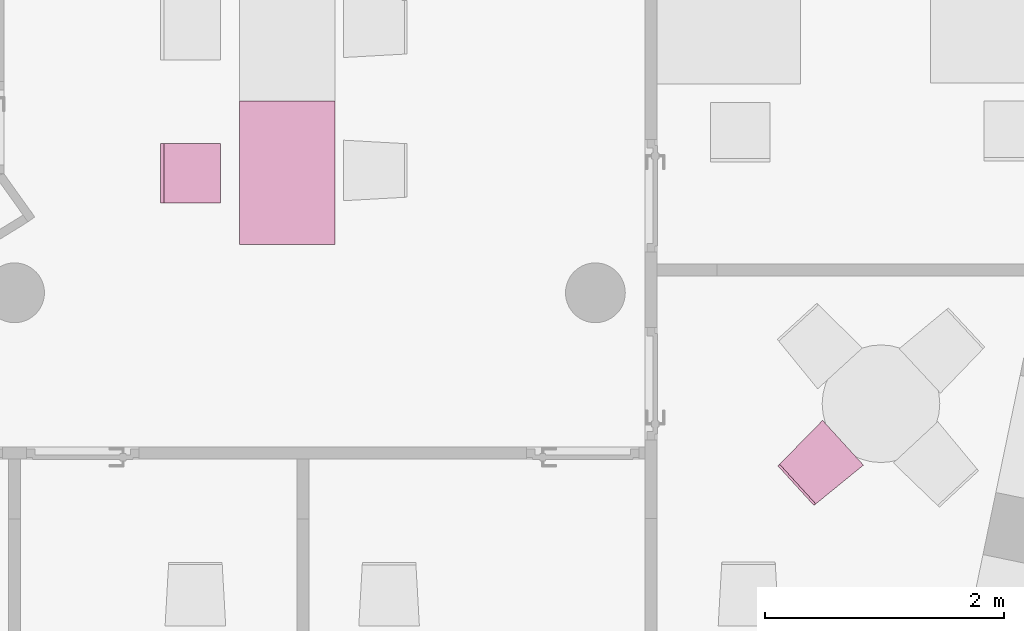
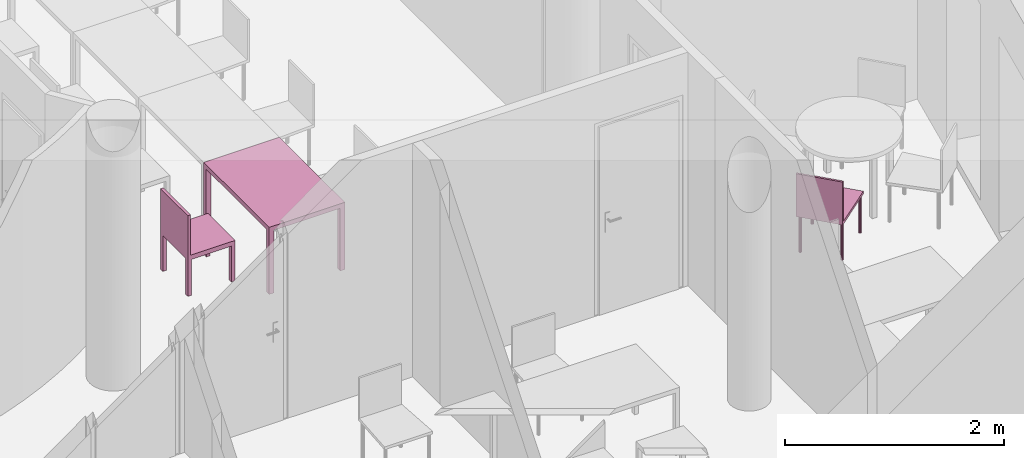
"""IFC4 building model written with IfcOpenShell, lengths in metres."""

from ifc_helpers import new_model, entity, si_unit, converted_unit, derived_unit, frame, origin, place, context, subcontext, project, spatial, faceted_brep, element, save


model = new_model("IFC4")

# Units and contexts
model_context = context("Model", 3, precision=1e-05, world=origin())
body_context = subcontext(model_context, "Body", "Model", "MODEL_VIEW")
ifc_project = project(units=[si_unit("LENGTHUNIT", "METRE"), si_unit("AREAUNIT", "SQUARE_METRE"), si_unit("VOLUMEUNIT", "CUBIC_METRE"), si_unit("MASSUNIT", "GRAM", prefix="KILO"), converted_unit("PLANEANGLEUNIT", "DEGREE", entity("IfcPlaneAngleMeasure", 0.0174532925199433), si_unit("PLANEANGLEUNIT", "RADIAN"), dimensions=[0, 0, 0, 0, 0, 0, 0]), derived_unit("THERMALTRANSMITTANCEUNIT", [(si_unit("POWERUNIT", "WATT"), 1), (si_unit("THERMODYNAMICTEMPERATUREUNIT", "KELVIN"), -1), (si_unit("LENGTHUNIT", "METRE"), -2)]), derived_unit("VOLUMETRICFLOWRATEUNIT", [(si_unit("LENGTHUNIT", "METRE"), 3), (converted_unit("TIMEUNIT", "hour", entity("IfcTimeMeasure", 3600.0), si_unit("TIMEUNIT", "SECOND"), dimensions=[0, 0, 1, 0, 0, 0, 0]), -1), (si_unit("LENGTHUNIT", "METRE"), -1)])], contexts=[model_context])

# Building, storeys
building_placement = place(None, origin())
building = spatial("IfcBuilding", under=ifc_project, at=building_placement, Name="HABITATGE PLURIFAMILIAR", CompositionType="ELEMENT")
storey_1_placement = place(building_placement, frame((0.0, 0.0, 6.25)))
storey_1 = spatial("IfcBuildingStorey", under=building, at=storey_1_placement, Name="PLANTA PRIMERA", CompositionType="ELEMENT", Elevation=6.25)
storey_2_placement = place(storey_1_placement, frame((0.0, 0.0, 3.35)))
storey_2 = spatial("IfcBuildingStorey", under=storey_1, at=storey_2_placement, Name="NOU", CompositionType="PARTIAL")

# Furniture
furniture_1_placement = place(storey_2_placement, frame((418.017336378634, 18.2033326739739, -3.35)))
element("IfcFurniture", 1, at=furniture_1_placement, inside=storey_2, Name="Taula 120X80_P1", context=body_context, shape_type="Brep", body=[
    faceted_brep([(0.750069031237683, 0.0464285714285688, 0.0), (0.750069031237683, 0.0, 0.0), (0.800069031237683, 0.0, 0.0), (0.800069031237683, 0.0464285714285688, 0.0), (0.800069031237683, 0.0464285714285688, 0.7), (0.800069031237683, 0.0, 0.7), (0.750069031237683, 0.0, 0.7), (0.750069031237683, 0.0464285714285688, 0.7)], [[[0, 1, 2, 3]], [[4, 5, 6, 7]], [[3, 4, 7, 0]], [[2, 5, 4, 3]], [[1, 6, 5, 2]], [[0, 7, 6, 1]]], orient=[[False], [False], [False], [False], [False], [False]]),
    faceted_brep([(0.0, 0.0464285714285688, 0.0), (0.0, 0.0, 0.0), (0.0500000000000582, 0.0, 0.0), (0.0500000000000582, 0.0464285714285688, 0.0), (0.0500000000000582, 0.0464285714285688, 0.7), (0.0500000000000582, 0.0, 0.7), (0.0, 0.0, 0.7), (0.0, 0.0464285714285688, 0.7)], [[[0, 1, 2, 3]], [[4, 5, 6, 7]], [[3, 4, 7, 0]], [[2, 5, 4, 3]], [[1, 6, 5, 2]], [[0, 7, 6, 1]]], orient=[[False], [False], [False], [False], [False], [False]]),
    faceted_brep([(0.750069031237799, 1.2, 0.0), (0.750069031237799, 1.15357142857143, 0.0), (0.800069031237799, 1.15357142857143, 0.0), (0.800069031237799, 1.2, 0.0), (0.800069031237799, 1.2, 0.7), (0.800069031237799, 1.15357142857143, 0.7), (0.750069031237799, 1.15357142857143, 0.7), (0.750069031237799, 1.2, 0.7)], [[[0, 1, 2, 3]], [[4, 5, 6, 7]], [[3, 4, 7, 0]], [[2, 5, 4, 3]], [[1, 6, 5, 2]], [[0, 7, 6, 1]]], orient=[[False], [False], [False], [False], [False], [False]]),
    faceted_brep([(0.0, 1.2, 0.0), (0.0, 1.15357142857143, 0.0), (0.0500000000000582, 1.15357142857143, 0.0), (0.0500000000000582, 1.2, 0.0), (0.0500000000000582, 1.2, 0.7), (0.0500000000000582, 1.15357142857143, 0.7), (0.0, 1.15357142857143, 0.7), (0.0, 1.2, 0.7)], [[[0, 1, 2, 3]], [[4, 5, 6, 7]], [[3, 4, 7, 0]], [[2, 5, 4, 3]], [[1, 6, 5, 2]], [[0, 7, 6, 1]]], orient=[[False], [False], [False], [False], [False], [False]]),
    faceted_brep([(0.0, 1.2, 0.7), (0.0, 0.0, 0.7), (0.800069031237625, 0.0, 0.7), (0.800069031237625, 1.2, 0.7), (0.800069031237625, 1.2, 0.75), (0.800069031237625, 0.0, 0.75), (0.0, 0.0, 0.75), (0.0, 1.2, 0.75)], [[[0, 1, 2, 3]], [[4, 5, 6, 7]], [[3, 4, 7, 0]], [[2, 5, 4, 3]], [[1, 6, 5, 2]], [[0, 7, 6, 1]]], orient=[[False], [False], [False], [False], [False], [False]]),
])
furniture_2_placement = place(storey_2_placement, frame((417.357575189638, 18.5493010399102, -3.34942958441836)))
element("IfcFurniture", 2, at=furniture_2_placement, inside=storey_2, Name="Cadira d'Oficina_P1", context=body_context, shape_type="Brep", body=[
    faceted_brep([(0.5, 0.0, 0.4), (0.5, 0.5, 0.4), (0.0, 0.5, 0.4), (0.0, 0.0, 0.4), (0.0, 0.0, 0.45), (0.0, 0.5, 0.45), (0.5, 0.5, 0.45), (0.5, 0.0, 0.45)], [[[0, 1, 2, 3]], [[4, 5, 6, 7]], [[3, 4, 7, 0]], [[2, 5, 4, 3]], [[1, 6, 5, 2]], [[0, 7, 6, 1]]], orient=[[False], [False], [False], [False], [False], [False]]),
    faceted_brep([(0.04, 0.5, 0.0), (0.0, 0.5, 0.0), (0.0, 0.46, 0.0), (0.04, 0.46, 0.0), (0.04, 0.46, 0.4), (0.0, 0.46, 0.4), (0.0, 0.5, 0.4), (0.04, 0.5, 0.4)], [[[0, 1, 2, 3]], [[4, 5, 6, 7]], [[3, 4, 7, 0]], [[2, 5, 4, 3]], [[1, 6, 5, 2]], [[0, 7, 6, 1]]], orient=[[False], [False], [False], [False], [False], [False]]),
    faceted_brep([(0.5, 0.5, 0.0), (0.46, 0.5, 0.0), (0.46, 0.46, 0.0), (0.5, 0.46, 0.0), (0.5, 0.46, 0.4), (0.46, 0.46, 0.4), (0.46, 0.5, 0.4), (0.5, 0.5, 0.4)], [[[0, 1, 2, 3]], [[4, 5, 6, 7]], [[3, 4, 7, 0]], [[2, 5, 4, 3]], [[1, 6, 5, 2]], [[0, 7, 6, 1]]], orient=[[False], [False], [False], [False], [False], [False]]),
    faceted_brep([(0.04, 0.04, 0.0), (0.0, 0.04, 0.0), (0.0, 0.0, 0.0), (0.04, 0.0, 0.0), (0.04, 0.0, 0.4), (0.0, 0.0, 0.4), (0.0, 0.04, 0.4), (0.04, 0.04, 0.4)], [[[0, 1, 2, 3]], [[4, 5, 6, 7]], [[3, 4, 7, 0]], [[2, 5, 4, 3]], [[1, 6, 5, 2]], [[0, 7, 6, 1]]], orient=[[False], [False], [False], [False], [False], [False]]),
    faceted_brep([(0.5, 0.04, 0.0), (0.46, 0.04, 0.0), (0.46, 0.0, 0.0), (0.5, 0.0, 0.0), (0.5, 0.0, 0.4), (0.46, 0.0, 0.4), (0.46, 0.04, 0.4), (0.5, 0.04, 0.4)], [[[0, 1, 2, 3]], [[4, 5, 6, 7]], [[3, 4, 7, 0]], [[2, 5, 4, 3]], [[1, 6, 5, 2]], [[0, 7, 6, 1]]], orient=[[False], [False], [False], [False], [False], [False]]),
    faceted_brep([(0.03, 0.5, 0.45), (0.0, 0.5, 0.45), (0.0, 0.0, 0.45), (0.03, 0.0, 0.45), (0.03, 0.0, 0.9), (0.0, 0.0, 0.9), (0.0, 0.5, 0.9), (0.03, 0.5, 0.9)], [[[0, 1, 2, 3]], [[4, 5, 6, 7]], [[3, 4, 7, 0]], [[2, 5, 4, 3]], [[1, 6, 5, 2]], [[0, 7, 6, 1]]], orient=[[False], [False], [False], [False], [False], [False]]),
])
furniture_3_placement = place(storey_2_placement, frame((422.517692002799, 16.0221823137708, -3.35114412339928)))
element("IfcFurniture", 3, at=furniture_3_placement, inside=storey_2, Name="Cadira confient_P1", context=body_context, shape_type="Brep", body=[
    faceted_brep([(0.689872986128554, 0.326821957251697, 0.0), (0.69162785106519, 0.328745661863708, 0.0), (0.693022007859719, 0.330944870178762, 0.0), (0.694013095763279, 0.333352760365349, 0.0), (0.694571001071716, 0.335896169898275, 0.0), (0.694678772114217, 0.338497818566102, 0.0), (0.694333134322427, 0.341078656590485, 0.0), (0.693544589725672, 0.343560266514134, 0.0), (0.692337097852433, 0.345867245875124, 0.0), (0.690747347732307, 0.347929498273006, 0.0), (0.688823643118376, 0.349684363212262, 0.0), (0.686624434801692, 0.35107852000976, 0.0), (0.684216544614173, 0.352069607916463, 0.0), (0.681673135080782, 0.352627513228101, 0.0), (0.679071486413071, 0.352735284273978, 0.0), (0.676490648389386, 0.35238964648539, 0.0), (0.674009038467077, 0.351601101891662, 0.0), (0.671702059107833, 0.350393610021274, 0.0), (0.669639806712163, 0.348803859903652, 0.0), (0.667884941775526, 0.346880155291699, 0.0), (0.666490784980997, 0.344680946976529, 0.0), (0.665499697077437, 0.342273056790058, 0.0), (0.664941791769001, 0.339729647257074, 0.0), (0.664834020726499, 0.337127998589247, 0.0), (0.665179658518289, 0.334547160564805, 0.0), (0.665968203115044, 0.332065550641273, 0.0), (0.667175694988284, 0.329758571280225, 0.0), (0.668765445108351, 0.327696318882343, 0.0), (0.670689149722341, 0.325941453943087, 0.0), (0.672888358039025, 0.324547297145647, 0.0), (0.675296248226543, 0.323556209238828, 0.0), (0.677839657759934, 0.322998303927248, 0.0), (0.680441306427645, 0.322890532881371, 0.0), (0.68302214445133, 0.323236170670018, 0.0), (0.68550375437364, 0.324024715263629, 0.0), (0.687810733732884, 0.325232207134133, 0.0), (0.689872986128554, 0.326821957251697, 0.448281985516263), (0.687810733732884, 0.325232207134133, 0.448281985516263), (0.68550375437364, 0.324024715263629, 0.448281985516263), (0.68302214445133, 0.323236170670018, 0.448281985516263), (0.680441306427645, 0.322890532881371, 0.448281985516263), (0.677839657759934, 0.322998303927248, 0.448281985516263), (0.675296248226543, 0.323556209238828, 0.448281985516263), (0.672888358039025, 0.324547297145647, 0.448281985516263), (0.670689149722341, 0.325941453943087, 0.448281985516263), (0.668765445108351, 0.327696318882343, 0.448281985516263), (0.667175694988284, 0.329758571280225, 0.448281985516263), (0.665968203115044, 0.332065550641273, 0.448281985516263), (0.665179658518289, 0.334547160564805, 0.448281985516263), (0.664834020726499, 0.337127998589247, 0.448281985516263), (0.664941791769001, 0.339729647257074, 0.448281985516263), (0.665499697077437, 0.342273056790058, 0.448281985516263), (0.666490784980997, 0.344680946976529, 0.448281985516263), (0.667884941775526, 0.346880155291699, 0.448281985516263), (0.669639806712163, 0.348803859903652, 0.448281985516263), (0.671702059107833, 0.350393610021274, 0.448281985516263), (0.674009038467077, 0.351601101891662, 0.448281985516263), (0.676490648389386, 0.35238964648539, 0.448281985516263), (0.679071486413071, 0.352735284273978, 0.448281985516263), (0.681673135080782, 0.352627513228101, 0.448281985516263), (0.684216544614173, 0.352069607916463, 0.448281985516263), (0.686624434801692, 0.35107852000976, 0.448281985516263), (0.688823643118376, 0.349684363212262, 0.448281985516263), (0.690747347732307, 0.347929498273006, 0.448281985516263), (0.692337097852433, 0.345867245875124, 0.448281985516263), (0.693544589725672, 0.343560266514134, 0.448281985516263), (0.694333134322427, 0.341078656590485, 0.448281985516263), (0.694678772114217, 0.338497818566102, 0.448281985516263), (0.694571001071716, 0.335896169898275, 0.448281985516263), (0.694013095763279, 0.333352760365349, 0.448281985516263), (0.693022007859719, 0.330944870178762, 0.448281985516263), (0.69162785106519, 0.328745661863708, 0.448281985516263)], [[[0, 1, 2, 3, 4, 5, 6, 7, 8, 9, 10, 11, 12, 13, 14, 15, 16, 17, 18, 19, 20, 21, 22, 23, 24, 25, 26, 27, 28, 29, 30, 31, 32, 33, 34, 35]], [[36, 37, 38, 39, 40, 41, 42, 43, 44, 45, 46, 47, 48, 49, 50, 51, 52, 53, 54, 55, 56, 57, 58, 59, 60, 61, 62, 63, 64, 65, 66, 67, 68, 69, 70, 71]], [[35, 37, 36, 0]], [[34, 38, 37, 35]], [[33, 39, 38, 34]], [[32, 40, 39, 33]], [[31, 41, 40, 32]], [[30, 42, 41, 31]], [[29, 43, 42, 30]], [[28, 44, 43, 29]], [[27, 45, 44, 28]], [[26, 46, 45, 27]], [[25, 47, 46, 26]], [[24, 48, 47, 25]], [[23, 49, 48, 24]], [[22, 50, 49, 23]], [[21, 51, 50, 22]], [[20, 52, 51, 21]], [[19, 53, 52, 20]], [[18, 54, 53, 19]], [[17, 55, 54, 18]], [[16, 56, 55, 17]], [[15, 57, 56, 16]], [[14, 58, 57, 15]], [[13, 59, 58, 14]], [[12, 60, 59, 13]], [[11, 61, 60, 12]], [[10, 62, 61, 11]], [[9, 63, 62, 10]], [[8, 64, 63, 9]], [[7, 65, 64, 8]], [[6, 66, 65, 7]], [[5, 67, 66, 6]], [[4, 68, 67, 5]], [[3, 69, 68, 4]], [[2, 70, 69, 3]], [[1, 71, 70, 2]], [[0, 36, 71, 1]]], orient=[[False], [False], [False], [False], [False], [False], [False], [False], [False], [False], [False], [False], [False], [False], [False], [False], [False], [False], [False], [False], [False], [False], [False], [False], [False], [False], [False], [False], [False], [False], [False], [False], [False], [False], [False], [False], [False], [False]]),
    faceted_brep([(0.329663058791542, 0.0355609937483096, 0.0), (0.331417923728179, 0.0374846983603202, 0.0), (0.33281208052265, 0.0396839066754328, 0.0), (0.333803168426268, 0.0420917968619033, 0.0), (0.334361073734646, 0.0446352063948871, 0.0), (0.334468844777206, 0.0472368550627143, 0.0), (0.334123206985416, 0.0498176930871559, 0.0), (0.333334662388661, 0.0522993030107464, 0.0), (0.332127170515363, 0.0546062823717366, 0.0), (0.330537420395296, 0.0566685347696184, 0.0), (0.328613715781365, 0.0584233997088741, 0.0), (0.326414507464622, 0.0598175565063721, 0.0), (0.324006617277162, 0.0608086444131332, 0.0), (0.321463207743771, 0.0613665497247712, 0.0), (0.31886155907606, 0.0614743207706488, 0.0), (0.316280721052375, 0.0611286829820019, 0.0), (0.313799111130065, 0.060340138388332, 0.0), (0.311492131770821, 0.0591326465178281, 0.0), (0.309429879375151, 0.057542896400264, 0.0), (0.307675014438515, 0.0556191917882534, 0.0), (0.306280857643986, 0.053419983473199, 0.0), (0.305289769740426, 0.0510120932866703, 0.0), (0.304731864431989, 0.0484686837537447, 0.0), (0.304624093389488, 0.0458670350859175, 0.0), (0.304969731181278, 0.0432861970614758, 0.0), (0.305758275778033, 0.0408045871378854, 0.0), (0.306965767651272, 0.038497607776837, 0.0), (0.308555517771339, 0.0364353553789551, 0.0), (0.310479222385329, 0.0346804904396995, 0.0), (0.312678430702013, 0.0332863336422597, 0.0), (0.315086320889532, 0.0322952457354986, 0.0), (0.317629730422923, 0.0317373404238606, 0.0), (0.320231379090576, 0.031629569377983, 0.0), (0.32281221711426, 0.0319752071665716, 0.0), (0.325293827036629, 0.0327637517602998, 0.0), (0.327600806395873, 0.0339712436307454, 0.0), (0.329663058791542, 0.0355609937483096, 0.448281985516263), (0.327600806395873, 0.0339712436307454, 0.448281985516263), (0.325293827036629, 0.0327637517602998, 0.448281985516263), (0.32281221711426, 0.0319752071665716, 0.448281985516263), (0.320231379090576, 0.031629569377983, 0.448281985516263), (0.317629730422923, 0.0317373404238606, 0.448281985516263), (0.315086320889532, 0.0322952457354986, 0.448281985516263), (0.312678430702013, 0.0332863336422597, 0.448281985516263), (0.310479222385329, 0.0346804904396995, 0.448281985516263), (0.308555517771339, 0.0364353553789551, 0.448281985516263), (0.306965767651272, 0.038497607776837, 0.448281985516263), (0.305758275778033, 0.0408045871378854, 0.448281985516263), (0.304969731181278, 0.0432861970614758, 0.448281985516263), (0.304624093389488, 0.0458670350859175, 0.448281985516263), (0.304731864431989, 0.0484686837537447, 0.448281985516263), (0.305289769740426, 0.0510120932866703, 0.448281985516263), (0.306280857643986, 0.053419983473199, 0.448281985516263), (0.307675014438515, 0.0556191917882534, 0.448281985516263), (0.309429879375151, 0.057542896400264, 0.448281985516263), (0.311492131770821, 0.0591326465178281, 0.448281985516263), (0.313799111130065, 0.060340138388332, 0.448281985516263), (0.316280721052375, 0.0611286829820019, 0.448281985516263), (0.31886155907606, 0.0614743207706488, 0.448281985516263), (0.321463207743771, 0.0613665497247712, 0.448281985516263), (0.324006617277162, 0.0608086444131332, 0.448281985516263), (0.326414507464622, 0.0598175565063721, 0.448281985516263), (0.328613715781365, 0.0584233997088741, 0.448281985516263), (0.330537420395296, 0.0566685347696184, 0.448281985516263), (0.332127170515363, 0.0546062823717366, 0.448281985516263), (0.333334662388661, 0.0522993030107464, 0.448281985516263), (0.334123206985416, 0.0498176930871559, 0.448281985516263), (0.334468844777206, 0.0472368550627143, 0.448281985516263), (0.334361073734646, 0.0446352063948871, 0.448281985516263), (0.333803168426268, 0.0420917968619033, 0.448281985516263), (0.33281208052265, 0.0396839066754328, 0.448281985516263), (0.331417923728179, 0.0374846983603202, 0.448281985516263)], [[[0, 1, 2, 3, 4, 5, 6, 7, 8, 9, 10, 11, 12, 13, 14, 15, 16, 17, 18, 19, 20, 21, 22, 23, 24, 25, 26, 27, 28, 29, 30, 31, 32, 33, 34, 35]], [[36, 37, 38, 39, 40, 41, 42, 43, 44, 45, 46, 47, 48, 49, 50, 51, 52, 53, 54, 55, 56, 57, 58, 59, 60, 61, 62, 63, 64, 65, 66, 67, 68, 69, 70, 71]], [[35, 37, 36, 0]], [[34, 38, 37, 35]], [[33, 39, 38, 34]], [[32, 40, 39, 33]], [[31, 41, 40, 32]], [[30, 42, 41, 31]], [[29, 43, 42, 30]], [[28, 44, 43, 29]], [[27, 45, 44, 28]], [[26, 46, 45, 27]], [[25, 47, 46, 26]], [[24, 48, 47, 25]], [[23, 49, 48, 24]], [[22, 50, 49, 23]], [[21, 51, 50, 22]], [[20, 52, 51, 21]], [[19, 53, 52, 20]], [[18, 54, 53, 19]], [[17, 55, 54, 18]], [[16, 56, 55, 17]], [[15, 57, 56, 16]], [[14, 58, 57, 15]], [[13, 59, 58, 14]], [[12, 60, 59, 13]], [[11, 61, 60, 12]], [[10, 62, 61, 11]], [[9, 63, 62, 10]], [[8, 64, 63, 9]], [[7, 65, 64, 8]], [[6, 66, 65, 7]], [[5, 67, 66, 6]], [[4, 68, 67, 5]], [[3, 69, 68, 4]], [[2, 70, 69, 3]], [[1, 71, 70, 2]], [[0, 36, 71, 1]]], orient=[[False], [False], [False], [False], [False], [False], [False], [False], [False], [False], [False], [False], [False], [False], [False], [False], [False], [False], [False], [False], [False], [False], [False], [False], [False], [False], [False], [False], [False], [False], [False], [False], [False], [False], [False], [False], [False], [False]]),
    faceted_brep([(0.379818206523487, 0.666624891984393, 0.0), (0.381573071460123, 0.668548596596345, 0.0), (0.382967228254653, 0.670747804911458, 0.0), (0.38395831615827, 0.673155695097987, 0.0), (0.384516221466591, 0.675699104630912, 0.0), (0.38462399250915, 0.678300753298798, 0.0), (0.384278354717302, 0.680881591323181, 0.0), (0.383489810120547, 0.683363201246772, 0.0), (0.382282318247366, 0.685670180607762, 0.0), (0.380692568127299, 0.687732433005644, 0.0), (0.378768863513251, 0.689487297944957, 0.0), (0.376569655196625, 0.690881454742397, 0.0), (0.374161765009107, 0.6918725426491, 0.0), (0.371618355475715, 0.692430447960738, 0.0), (0.369016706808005, 0.692538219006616, 0.0), (0.36643586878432, 0.692192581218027, 0.0), (0.363954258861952, 0.691404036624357, 0.0), (0.361647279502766, 0.690196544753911, 0.0), (0.359585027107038, 0.688606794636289, 0.0), (0.35783016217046, 0.686683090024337, 0.0), (0.35643600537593, 0.684483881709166, 0.0), (0.355444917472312, 0.682075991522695, 0.0), (0.354887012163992, 0.679532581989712, 0.0), (0.354779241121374, 0.676930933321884, 0.0), (0.355124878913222, 0.674350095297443, 0.0), (0.355913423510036, 0.671868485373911, 0.0), (0.357120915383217, 0.66956150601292, 0.0), (0.358710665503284, 0.66749925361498, 0.0), (0.360634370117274, 0.665744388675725, 0.0), (0.362833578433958, 0.664350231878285, 0.0), (0.365241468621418, 0.663359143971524, 0.0), (0.367784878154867, 0.662801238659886, 0.0), (0.370386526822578, 0.662693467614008, 0.0), (0.372967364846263, 0.663039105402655, 0.0), (0.375448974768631, 0.663827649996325, 0.0), (0.377755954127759, 0.665035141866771, 0.0), (0.379818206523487, 0.666624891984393, 0.448281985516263), (0.377755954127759, 0.665035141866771, 0.448281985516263), (0.375448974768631, 0.663827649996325, 0.448281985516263), (0.372967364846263, 0.663039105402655, 0.448281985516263), (0.370386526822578, 0.662693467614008, 0.448281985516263), (0.367784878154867, 0.662801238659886, 0.448281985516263), (0.365241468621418, 0.663359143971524, 0.448281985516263), (0.362833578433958, 0.664350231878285, 0.448281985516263), (0.360634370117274, 0.665744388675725, 0.448281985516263), (0.358710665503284, 0.66749925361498, 0.448281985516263), (0.357120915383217, 0.66956150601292, 0.448281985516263), (0.355913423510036, 0.671868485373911, 0.448281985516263), (0.355124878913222, 0.674350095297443, 0.448281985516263), (0.354779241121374, 0.676930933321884, 0.448281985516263), (0.354887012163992, 0.679532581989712, 0.448281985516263), (0.355444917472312, 0.682075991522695, 0.448281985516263), (0.35643600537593, 0.684483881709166, 0.448281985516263), (0.35783016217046, 0.686683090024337, 0.448281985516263), (0.359585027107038, 0.688606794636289, 0.448281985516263), (0.361647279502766, 0.690196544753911, 0.448281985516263), (0.363954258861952, 0.691404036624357, 0.448281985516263), (0.36643586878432, 0.692192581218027, 0.448281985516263), (0.369016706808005, 0.692538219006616, 0.448281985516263), (0.371618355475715, 0.692430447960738, 0.448281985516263), (0.374161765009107, 0.6918725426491, 0.448281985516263), (0.376569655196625, 0.690881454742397, 0.448281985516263), (0.378768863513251, 0.689487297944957, 0.448281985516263), (0.380692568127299, 0.687732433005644, 0.448281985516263), (0.382282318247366, 0.685670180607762, 0.448281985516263), (0.383489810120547, 0.683363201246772, 0.448281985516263), (0.384278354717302, 0.680881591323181, 0.448281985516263), (0.38462399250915, 0.678300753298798, 0.448281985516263), (0.384516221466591, 0.675699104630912, 0.448281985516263), (0.38395831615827, 0.673155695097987, 0.448281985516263), (0.382967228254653, 0.670747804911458, 0.448281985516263), (0.381573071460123, 0.668548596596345, 0.448281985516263)], [[[0, 1, 2, 3, 4, 5, 6, 7, 8, 9, 10, 11, 12, 13, 14, 15, 16, 17, 18, 19, 20, 21, 22, 23, 24, 25, 26, 27, 28, 29, 30, 31, 32, 33, 34, 35]], [[36, 37, 38, 39, 40, 41, 42, 43, 44, 45, 46, 47, 48, 49, 50, 51, 52, 53, 54, 55, 56, 57, 58, 59, 60, 61, 62, 63, 64, 65, 66, 67, 68, 69, 70, 71]], [[35, 37, 36, 0]], [[34, 38, 37, 35]], [[33, 39, 38, 34]], [[32, 40, 39, 33]], [[31, 41, 40, 32]], [[30, 42, 41, 31]], [[29, 43, 42, 30]], [[28, 44, 43, 29]], [[27, 45, 44, 28]], [[26, 46, 45, 27]], [[25, 47, 46, 26]], [[24, 48, 47, 25]], [[23, 49, 48, 24]], [[22, 50, 49, 23]], [[21, 51, 50, 22]], [[20, 52, 51, 21]], [[19, 53, 52, 20]], [[18, 54, 53, 19]], [[17, 55, 54, 18]], [[16, 56, 55, 17]], [[15, 57, 56, 16]], [[14, 58, 57, 15]], [[13, 59, 58, 14]], [[12, 60, 59, 13]], [[11, 61, 60, 12]], [[10, 62, 61, 11]], [[9, 63, 62, 10]], [[8, 64, 63, 9]], [[7, 65, 64, 8]], [[6, 66, 65, 7]], [[5, 67, 66, 6]], [[4, 68, 67, 5]], [[3, 69, 68, 4]], [[2, 70, 69, 3]], [[1, 71, 70, 2]], [[0, 36, 71, 1]]], orient=[[False], [False], [False], [False], [False], [False], [False], [False], [False], [False], [False], [False], [False], [False], [False], [False], [False], [False], [False], [False], [False], [False], [False], [False], [False], [False], [False], [False], [False], [False], [False], [False], [False], [False], [False], [False], [False], [False]]),
    faceted_brep([(0.0600502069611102, 0.331041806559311, 0.0), (0.0618050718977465, 0.332965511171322, 0.0), (0.0631992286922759, 0.335164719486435, 0.0), (0.0641903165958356, 0.337572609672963, 0.0), (0.0647482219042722, 0.340116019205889, 0.0), (0.0648559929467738, 0.342717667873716, 0.0), (0.0645103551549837, 0.345298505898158, 0.0), (0.0637218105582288, 0.34778011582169, 0.0), (0.0625143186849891, 0.350087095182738, 0.0), (0.0609245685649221, 0.352149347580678, 0.0), (0.0590008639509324, 0.353904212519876, 0.0), (0.05680165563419, 0.355298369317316, 0.0), (0.05439376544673, 0.356289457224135, 0.0), (0.0518503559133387, 0.356847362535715, 0.0), (0.0492487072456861, 0.356955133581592, 0.0), (0.0466678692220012, 0.356609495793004, 0.0), (0.0441862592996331, 0.355820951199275, 0.0), (0.0418792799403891, 0.354613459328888, 0.0), (0.0398170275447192, 0.353023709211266, 0.0), (0.0380621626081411, 0.351100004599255, 0.0), (0.0366680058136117, 0.348900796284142, 0.0), (0.0356769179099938, 0.346492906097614, 0.0), (0.0351190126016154, 0.343949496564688, 0.0), (0.0350112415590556, 0.341347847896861, 0.0), (0.0353568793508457, 0.338767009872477, 0.0), (0.0361454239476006, 0.336285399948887, 0.0), (0.0373529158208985, 0.333978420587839, 0.0), (0.0389426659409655, 0.331916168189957, 0.0), (0.040866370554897, 0.330161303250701, 0.0), (0.0430655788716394, 0.328767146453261, 0.0), (0.0454734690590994, 0.3277760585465, 0.0), (0.0480168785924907, 0.327218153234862, 0.0), (0.0506185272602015, 0.327110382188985, 0.0), (0.0531993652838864, 0.327456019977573, 0.0), (0.0556809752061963, 0.328244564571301, 0.0), (0.0579879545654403, 0.329452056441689, 0.0), (0.0600502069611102, 0.331041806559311, 0.448281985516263), (0.0579879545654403, 0.329452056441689, 0.448281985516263), (0.0556809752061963, 0.328244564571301, 0.448281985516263), (0.0531993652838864, 0.327456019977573, 0.448281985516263), (0.0506185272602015, 0.327110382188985, 0.448281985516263), (0.0480168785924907, 0.327218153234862, 0.448281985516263), (0.0454734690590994, 0.3277760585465, 0.448281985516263), (0.0430655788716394, 0.328767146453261, 0.448281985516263), (0.040866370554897, 0.330161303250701, 0.448281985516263), (0.0389426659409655, 0.331916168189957, 0.448281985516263), (0.0373529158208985, 0.333978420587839, 0.448281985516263), (0.0361454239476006, 0.336285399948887, 0.448281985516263), (0.0353568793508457, 0.338767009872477, 0.448281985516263), (0.0350112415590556, 0.341347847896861, 0.448281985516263), (0.0351190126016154, 0.343949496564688, 0.448281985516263), (0.0356769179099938, 0.346492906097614, 0.448281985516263), (0.0366680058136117, 0.348900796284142, 0.448281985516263), (0.0380621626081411, 0.351100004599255, 0.448281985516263), (0.0398170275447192, 0.353023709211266, 0.448281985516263), (0.0418792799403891, 0.354613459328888, 0.448281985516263), (0.0441862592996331, 0.355820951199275, 0.448281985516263), (0.0466678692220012, 0.356609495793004, 0.448281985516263), (0.0492487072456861, 0.356955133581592, 0.448281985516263), (0.0518503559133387, 0.356847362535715, 0.448281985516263), (0.05439376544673, 0.356289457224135, 0.448281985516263), (0.05680165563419, 0.355298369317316, 0.448281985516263), (0.0590008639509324, 0.353904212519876, 0.448281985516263), (0.0609245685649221, 0.352149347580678, 0.448281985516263), (0.0625143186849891, 0.350087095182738, 0.448281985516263), (0.0637218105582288, 0.34778011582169, 0.448281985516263), (0.0645103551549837, 0.345298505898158, 0.448281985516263), (0.0648559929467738, 0.342717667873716, 0.448281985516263), (0.0647482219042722, 0.340116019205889, 0.448281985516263), (0.0641903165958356, 0.337572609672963, 0.448281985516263), (0.0631992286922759, 0.335164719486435, 0.448281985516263), (0.0618050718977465, 0.332965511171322, 0.448281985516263)], [[[0, 1, 2, 3, 4, 5, 6, 7, 8, 9, 10, 11, 12, 13, 14, 15, 16, 17, 18, 19, 20, 21, 22, 23, 24, 25, 26, 27, 28, 29, 30, 31, 32, 33, 34, 35]], [[36, 37, 38, 39, 40, 41, 42, 43, 44, 45, 46, 47, 48, 49, 50, 51, 52, 53, 54, 55, 56, 57, 58, 59, 60, 61, 62, 63, 64, 65, 66, 67, 68, 69, 70, 71]], [[35, 37, 36, 0]], [[34, 38, 37, 35]], [[33, 39, 38, 34]], [[32, 40, 39, 33]], [[31, 41, 40, 32]], [[30, 42, 41, 31]], [[29, 43, 42, 30]], [[28, 44, 43, 29]], [[27, 45, 44, 28]], [[26, 46, 45, 27]], [[25, 47, 46, 26]], [[24, 48, 47, 25]], [[23, 49, 48, 24]], [[22, 50, 49, 23]], [[21, 51, 50, 22]], [[20, 52, 51, 21]], [[19, 53, 52, 20]], [[18, 54, 53, 19]], [[17, 55, 54, 18]], [[16, 56, 55, 17]], [[15, 57, 56, 16]], [[14, 58, 57, 15]], [[13, 59, 58, 14]], [[12, 60, 59, 13]], [[11, 61, 60, 12]], [[10, 62, 61, 11]], [[9, 63, 62, 10]], [[8, 64, 63, 9]], [[7, 65, 64, 8]], [[6, 66, 65, 7]], [[5, 67, 66, 6]], [[4, 68, 67, 5]], [[3, 69, 68, 4]], [[2, 70, 69, 3]], [[1, 71, 70, 2]], [[0, 36, 71, 1]]], orient=[[False], [False], [False], [False], [False], [False], [False], [False], [False], [False], [False], [False], [False], [False], [False], [False], [False], [False], [False], [False], [False], [False], [False], [False], [False], [False], [False], [False], [False], [False], [False], [False], [False], [False], [False], [False], [False], [False]]),
    faceted_brep([(0.0, 0.329841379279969, 0.418281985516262), (0.300965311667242, 0.0, 0.418281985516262), (0.71462474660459, 0.336833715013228, 0.418281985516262), (0.373217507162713, 0.710997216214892, 0.418281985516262), (0.373217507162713, 0.710997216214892, 0.448281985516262), (0.71462474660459, 0.336833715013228, 0.448281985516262), (0.300965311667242, 0.0, 0.448281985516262), (0.0, 0.329841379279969, 0.448281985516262)], [[[0, 1, 2, 3]], [[4, 5, 6, 7]], [[3, 4, 7, 0]], [[2, 5, 4, 3]], [[1, 6, 5, 2]], [[0, 7, 6, 1]]], orient=[[False], [False], [False], [False], [False], [False]]),
    faceted_brep([(0.014774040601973, 0.343322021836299, 0.448281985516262), (0.0, 0.329841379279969, 0.448281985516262), (0.3009653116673, 0.0, 0.448281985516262), (0.315739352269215, 0.0134806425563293, 0.448281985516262), (0.315739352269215, 0.0134806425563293, 0.898281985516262), (0.3009653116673, 0.0, 0.898281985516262), (0.0, 0.329841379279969, 0.898281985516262), (0.014774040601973, 0.343322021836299, 0.898281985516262)], [[[0, 1, 2, 3]], [[4, 5, 6, 7]], [[3, 4, 7, 0]], [[2, 5, 4, 3]], [[1, 6, 5, 2]], [[0, 7, 6, 1]]], orient=[[False], [False], [False], [False], [False], [False]]),
])

save(model, "model.ifc")
